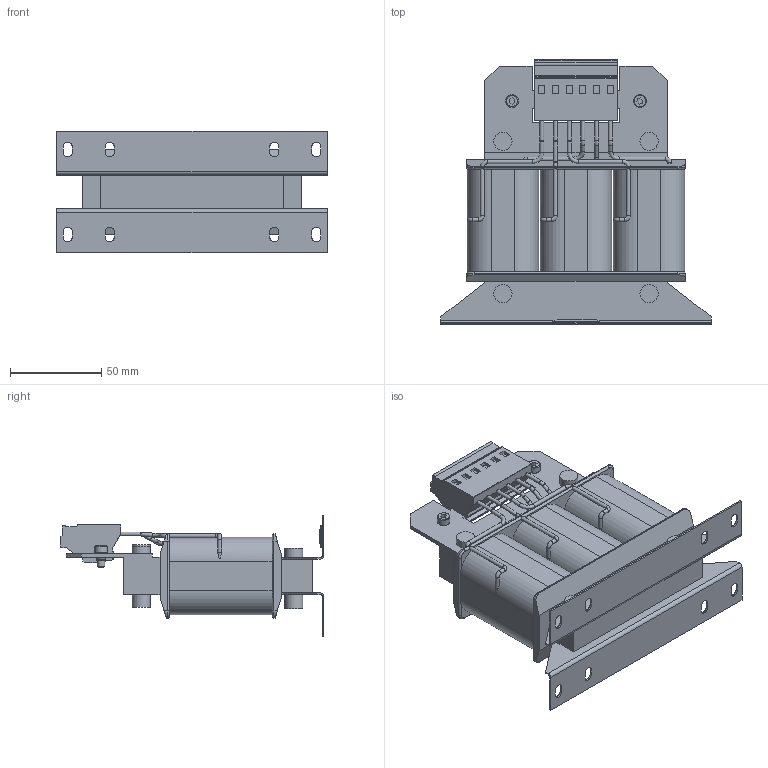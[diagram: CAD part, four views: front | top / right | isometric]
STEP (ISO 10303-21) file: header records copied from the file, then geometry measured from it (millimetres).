
FILE_DESCRIPTION (( 'STEP AP214' ), '1' );
FILE_NAME ('12Z1B03-1000.STEP', '2022-04-05T11:11:51', ( '' ), ( '' ), 'SwSTEP 2.0', 'SolidWorks 2019', '' );
FILE_SCHEMA (( 'AUTOMOTIVE_DESIGN' ));
Length unit declared in the file: millimetre
Products named in the file (1): 12Z1B03-1000
Bounding box: 148 x 144.5 x 66.4 mm (x, y, z)
Volume: 421800.6 mm3; surface area: 79648.1 mm2
Topology: 1 solids, 1 shells, 394 faces, 1061 edges, 687 vertices
Faces by surface type: plane 206, cylinder 121, torus 36, bspline 27, cone 4
Full cylindrical faces by diameter (mm): 2.12 x29, 4 x4, 4.78 x2, 7 x2, 10 x8
Entity records: 13711 total; most frequent: CARTESIAN_POINT 4193, ORIENTED_EDGE 1926, DIRECTION 1762, EDGE_CURVE 963, VERTEX_POINT 666, AXIS2_PLACEMENT_3D 599, VECTOR 564, LINE 564
